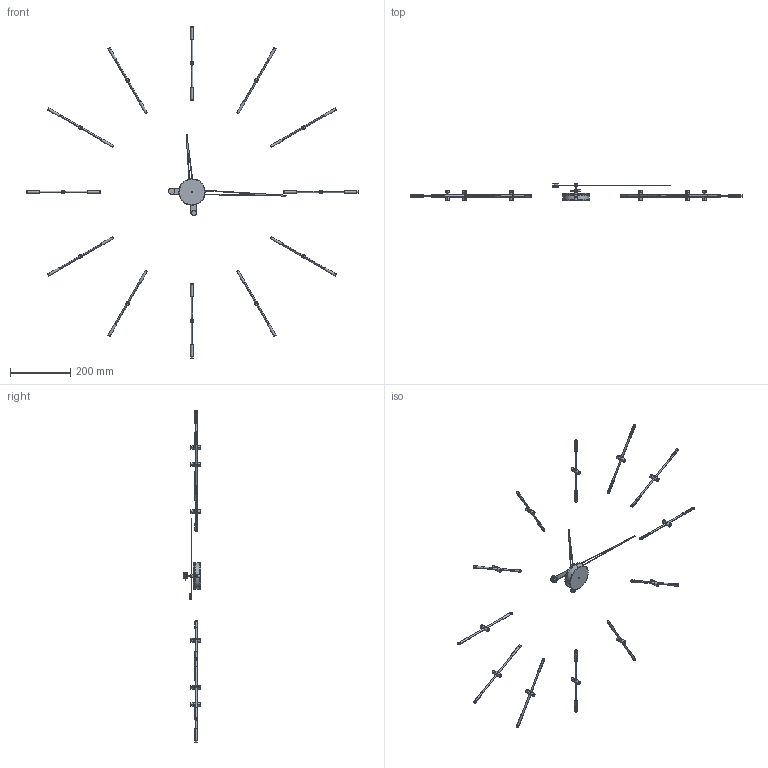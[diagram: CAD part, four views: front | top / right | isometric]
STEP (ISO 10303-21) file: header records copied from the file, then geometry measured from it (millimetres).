
FILE_DESCRIPTION (( 'STEP AP214' ), '1' );
FILE_NAME ('Merlín i_110.STEP', '2016-09-30T07:37:56', ( '' ), ( '' ), 'SwSTEP 2.0', 'SolidWorks 2016', '' );
FILE_SCHEMA (( 'AUTOMOTIVE_DESIGN' ));
Length unit declared in the file: millimetre
Products named in the file (27): Señal_horaria_merlín; pasante; Varilla_nogal_señal_horaria_merlín; Merlín i_110; arandela_2; Esparrago_roscado_merlin; Embellecedor_señal_horaria_merlín; arandela; Pieza_caja_inferior; Tuerca; aguja_minutera_calada_inox; Casquillo_señal_horaria_merlín; Contrapeso_pequeño; Contrapeso_mediano; Anclaje_señal_horaria_merlin; aguja_horaria_calada_inox; Axioma_i; Aguja_horaria_calada_inox; Esparrago; Pieza2; Cierre_contrapeso; Aguja_minutera_calada_inox; Mecanismo; Tuerca 1.5; Pieza_caja_superior; Caja_acero_inox; Embellecedor
Assembly tree (40 placements, depth 4):
  Merlín i_110
    Axioma_i
      Caja_acero_inox
        Pieza_caja_inferior
        Pieza_caja_superior
        Mecanismo
        Pieza2
      Aguja_minutera_calada_inox
        aguja_minutera_calada_inox
        Contrapeso_mediano  x2
        arandela_2
        Tuerca 1.5
        Embellecedor
        Esparrago
      Aguja_horaria_calada_inox
        aguja_horaria_calada_inox
        Contrapeso_pequeño
        Cierre_contrapeso
        arandela
        Tuerca
        pasante
        arandela_2
    Señal_horaria_merlín  x12
      Anclaje_señal_horaria_merlin
      Casquillo_señal_horaria_merlín
      Embellecedor_señal_horaria_merlín
      Esparrago_roscado_merlin
      Varilla_nogal_señal_horaria_merlín
Bounding box: 1100.07 x 57.3 x 1100.07 mm (x, y, z)
Volume: 199563.5 mm3; surface area: 206328.2 mm2
Topology: 90 solids, 90 shells, 693 faces, 1406 edges, 922 vertices
Faces by surface type: cylinder 398, plane 257, torus 26, cone 12
Entity records: 8016 total; most frequent: CARTESIAN_POINT 1381, DIRECTION 1360, ORIENTED_EDGE 1012, AXIS2_PLACEMENT_3D 577, EDGE_CURVE 506, VERTEX_POINT 322, EDGE_LOOP 290, CIRCLE 288
